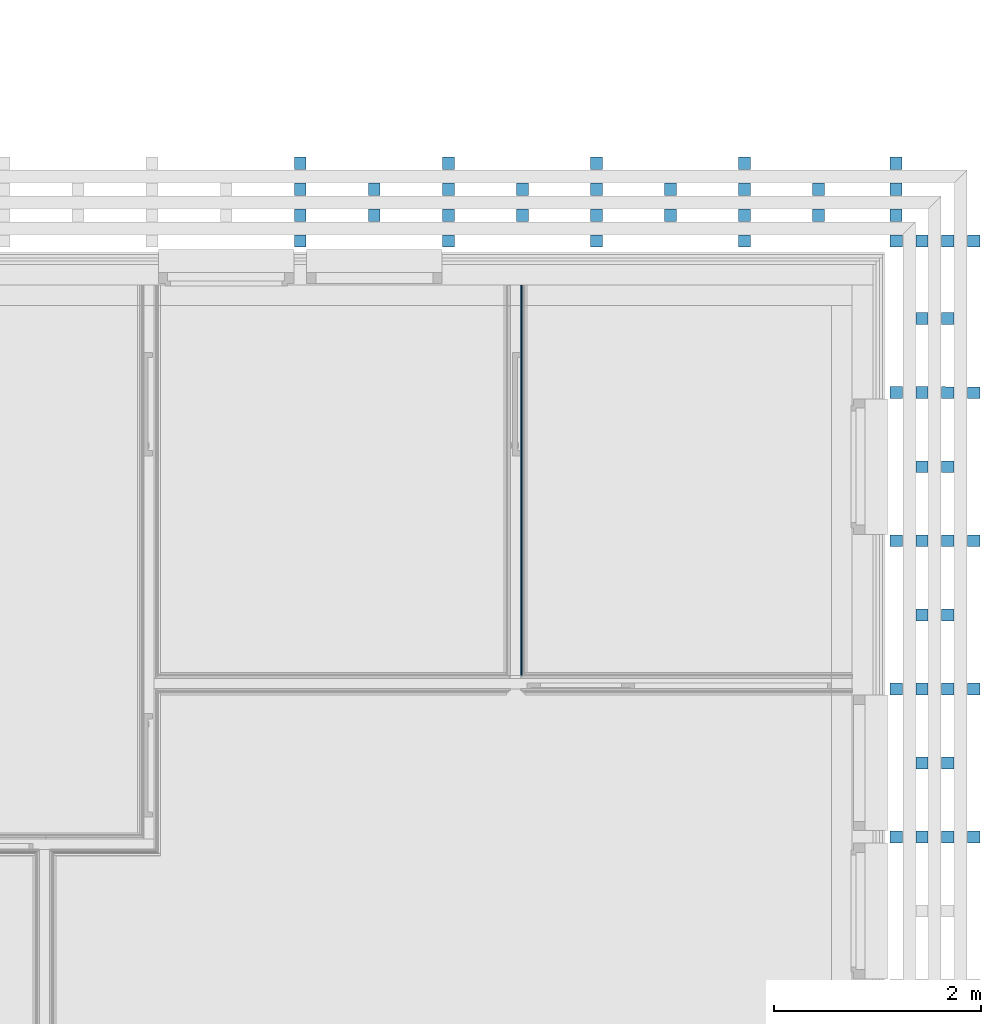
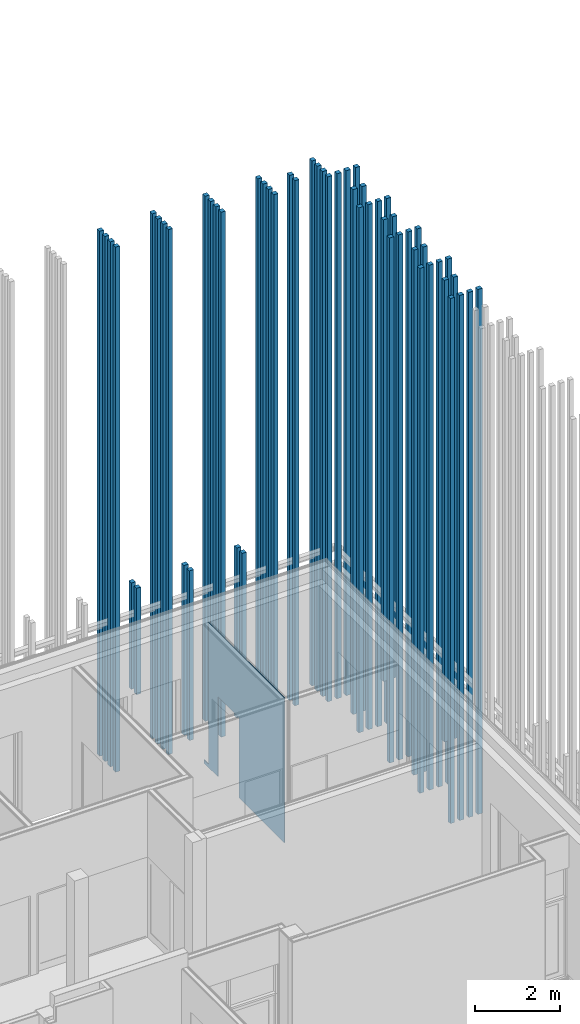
# One storey, part 221 of 260: 18 discrete accessories, 1 building element part, 1 opening, 1 element without a shape of its own.
"""IFC2X3 building model written with IfcOpenShell, lengths in millimetres."""

from ifc_helpers import new_model, entity, si_unit, converted_unit, derived_unit, money_unit, direction, frame, origin_with_axes, place, context, subcontext, project, spatial, faceted_brep, material, material_list, type_object, element, aggregate, save


model = new_model("IFC2X3")

# Units and contexts
model_context = context("Model", 3, precision=0.01, world=origin_with_axes(), true_north=direction((0.0, 1.0)))
body_context = subcontext(model_context, "Body", "Model", "MODEL_VIEW")
ifc_project = project(units=[si_unit("LENGTHUNIT", "METRE", prefix="MILLI"), si_unit("AREAUNIT", "SQUARE_METRE"), si_unit("VOLUMEUNIT", "CUBIC_METRE"), converted_unit("PLANEANGLEUNIT", "DEGREE", entity("IfcPlaneAngleMeasure", 0.0174532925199), si_unit("PLANEANGLEUNIT", "RADIAN"), dimensions=[0, 0, 0, 0, 0, 0, 0]), money_unit("EUR"), converted_unit("TIMEUNIT", "Year", entity("IfcTimeMeasure", 31556926.0), si_unit("TIMEUNIT", "SECOND"), dimensions=[0, 0, 1, 0, 0, 0, 0]), si_unit("MASSUNIT", "GRAM", prefix="KILO"), si_unit("THERMODYNAMICTEMPERATUREUNIT", "DEGREE_CELSIUS"), si_unit("LUMINOUSINTENSITYUNIT", "LUMEN"), si_unit("ENERGYUNIT", "JOULE", prefix="MEGA"), derived_unit("THERMALCONDUCTANCEUNIT", [(si_unit("POWERUNIT", "WATT"), 1), (si_unit("LENGTHUNIT", "METRE"), -1), (si_unit("THERMODYNAMICTEMPERATUREUNIT", "KELVIN"), -1)]), derived_unit("SPECIFICHEATCAPACITYUNIT", [(si_unit("ENERGYUNIT", "JOULE"), 1), (si_unit("MASSUNIT", "GRAM", prefix="KILO"), -1), (si_unit("THERMODYNAMICTEMPERATUREUNIT", "KELVIN"), -1)]), derived_unit("MASSDENSITYUNIT", [(si_unit("MASSUNIT", "GRAM", prefix="KILO"), 1), (si_unit("VOLUMEUNIT", "CUBIC_METRE"), -1)])], contexts=[model_context])

# Site, building, storey
site_placement = place(None, origin_with_axes())
site = spatial("IfcSite", under=ifc_project, at=site_placement, Name="Kolde pst 67a", CompositionType="ELEMENT")
building_placement = place(site_placement, origin_with_axes())
building = spatial("IfcBuilding", under=site, at=building_placement, Name="Riigigümnaasium", CompositionType="ELEMENT")
storey_placement = place(building_placement, origin_with_axes())
storey = spatial("IfcBuildingStorey", under=building, at=storey_placement, Name="1. korrus", CompositionType="ELEMENT", Elevation=0.0)

# Discrete accessories
ifc_material_1 = material(Name="_VÄLISVIIMISTLUS - sõrmjätkatud puitprussid 120x115mm, liitekohad vähemärgatavad, Platowood sõrmjätkatud kuusk või samaväärne; eeltöödeldud tuletõkkevõõbaga, tuletundlikkus B-s1, d0, Woodsafe Exterior WFX™ või samaväärne; kinnitused vastavalt EK osale")
ifc_material_list_1 = material_list([ifc_material_1, ifc_material_1, ifc_material_1, ifc_material_1])
discrete_accessory_type_1 = type_object("IfcDiscreteAccessoryType", Name="120 4-ne vertikaalne 870 x 115")
for number, where, z_axis, x_axis in (
    (1, (79122.4904765, 36791.9931243, 280.0), (0.0, 0.0, 1.0), (-6.32316306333e-05, -0.999999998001, 0.0)),
    (2, (80552.4904765, 36791.9930177, 280.0), (0.0, 0.0, 1.0), (-6.32316306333e-05, -0.999999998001, 0.0)),
    (3, (81982.4904765, 36791.9934091, 280.0), (0.0, 0.0, 1.0), (-6.32316306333e-05, -0.999999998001, 0.0)),
    (4, (83411.6535049, 36792.0019933, 280.000008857), (0.0, 0.0, 1.0), (-6.32316306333e-05, -0.999999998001, 0.0)),
    (5, (84792.0287604, 31097.5258894, 280.0), (0.0, 0.0, 1.0), (-0.999999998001, 6.32316306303e-05, 0.0)),
    (6, (84792.0287604, 32527.5258921, 280.0), (0.0, 0.0, 1.0), (-0.999999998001, 6.32316306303e-05, 0.0)),
    (7, (84792.0287604, 33957.5258816, 280.0), (0.0, 0.0, 1.0), (-0.999999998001, 6.32316306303e-05, 0.0)),
    (8, (84792.0311161, 35387.5263133, 280.0), (0.0, 0.0, 1.0), (-0.999999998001, 6.32316306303e-05, 0.0)),
    (9, (84792.0409335, 36852.3942354, 280.0), (0.0, 0.0, 1.0), (-0.999999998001, 6.32316306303e-05, 0.0)),
):
    element("IfcDiscreteAccessory", number, at=place(storey_placement, frame(where, z_axis=z_axis, x_axis=x_axis)), inside=storey, type_object=discrete_accessory_type_1, material=ifc_material_list_1, Name="Päikesevarjestus", context=body_context, shape_type="Brep", body=[
        faceted_brep([(-133.0, -70.0, 0.0), (-13.0, -70.0, 0.0), (-13.0, -70.0, 15050.0), (-133.0, -70.0, 15050.0), (-133.0, 45.0, 0.0), (-13.0, 45.0, 0.0), (-13.0, 45.0, 15050.0), (-133.0, 45.0, 15050.0)], [[[0, 1, 2, 3]], [[0, 4, 5, 1]], [[1, 5, 6, 2]], [[3, 2, 6, 7]], [[4, 0, 3, 7]], [[5, 4, 7, 6]]]),
        faceted_brep([(-383.0, -70.0, 0.0), (-263.0, -70.0, 0.0), (-263.0, -70.0, 15050.0), (-383.0, -70.0, 15050.0), (-383.0, 45.0, 0.0), (-263.0, 45.0, 0.0), (-263.0, 45.0, 15050.0), (-383.0, 45.0, 15050.0)], [[[0, 1, 2, 3]], [[0, 4, 5, 1]], [[1, 5, 6, 2]], [[3, 2, 6, 7]], [[4, 0, 3, 7]], [[5, 4, 7, 6]]]),
        faceted_brep([(-633.0, -70.0, 0.0), (-513.0, -70.0, 0.0), (-513.0, -70.0, 15050.0), (-633.0, -70.0, 15050.0), (-633.0, 45.0, 0.0), (-513.0, 45.0, 0.0), (-513.0, 45.0, 15050.0), (-633.0, 45.0, 15050.0)], [[[0, 1, 2, 3]], [[0, 4, 5, 1]], [[1, 5, 6, 2]], [[3, 2, 6, 7]], [[4, 0, 3, 7]], [[5, 4, 7, 6]]]),
        faceted_brep([(-883.0, -70.0, 0.0), (-763.0, -70.0, 0.0), (-763.0, -70.0, 15050.0), (-883.0, -70.0, 15050.0), (-883.0, 45.0, 0.0), (-763.0, 45.0, 0.0), (-763.0, 45.0, 15050.0), (-883.0, 45.0, 15050.0)], [[[0, 1, 2, 3]], [[0, 4, 5, 1]], [[1, 5, 6, 2]], [[3, 2, 6, 7]], [[4, 0, 3, 7]], [[5, 4, 7, 6]]]),
    ])
ifc_material_list_2 = material_list([ifc_material_1, ifc_material_1, ifc_material_1])
discrete_accessory_type_2 = type_object("IfcDiscreteAccessoryType", Name="120 4-ne vertikaalne -1 nurgaribi 620 x 115")
discrete_accessory_1_placement = place(storey_placement, frame((84877.5288877, 36791.9951155, 280.0), z_axis=(0.0, 0.0, 1.0), x_axis=(-6.32316306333e-05, -0.999999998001, 0.0)))
element("IfcDiscreteAccessory", 10, at=discrete_accessory_1_placement, inside=storey, type_object=discrete_accessory_type_2, material=ifc_material_list_2, Name="Päikesevarjestus", context=body_context, shape_type="Brep", body=[
    faceted_brep([(-383.0, -70.0, 0.0), (-263.0, -70.0, 0.0), (-263.0, -70.0, 15050.0), (-383.0, -70.0, 15050.0), (-383.0, 45.0, 0.0), (-263.0, 45.0, 0.0), (-263.0, 45.0, 15050.0), (-383.0, 45.0, 15050.0)], [[[0, 1, 2, 3]], [[0, 4, 5, 1]], [[1, 5, 6, 2]], [[3, 2, 6, 7]], [[4, 0, 3, 7]], [[5, 4, 7, 6]]]),
    faceted_brep([(-633.0, -70.0, 0.0), (-513.0, -70.0, 0.0), (-513.0, -70.0, 15050.0), (-633.0, -70.0, 15050.0), (-633.0, 45.0, 0.0), (-513.0, 45.0, 0.0), (-513.0, 45.0, 15050.0), (-633.0, 45.0, 15050.0)], [[[0, 1, 2, 3]], [[0, 4, 5, 1]], [[1, 5, 6, 2]], [[3, 2, 6, 7]], [[4, 0, 3, 7]], [[5, 4, 7, 6]]]),
    faceted_brep([(-883.0, -70.0, 0.0), (-763.0, -70.0, 0.0), (-763.0, -70.0, 15050.0), (-883.0, -70.0, 15050.0), (-883.0, 45.0, 0.0), (-763.0, 45.0, 0.0), (-763.0, 45.0, 15050.0), (-883.0, 45.0, 15050.0)], [[[0, 1, 2, 3]], [[0, 4, 5, 1]], [[1, 5, 6, 2]], [[3, 2, 6, 7]], [[4, 0, 3, 7]], [[5, 4, 7, 6]]]),
])
ifc_material_list_3 = material_list([ifc_material_1, ifc_material_1])
discrete_accessory_type_3 = type_object("IfcDiscreteAccessoryType", Name="1+paiksekaitse 3 370 x 115")
discrete_accessory_2_placement = place(storey_placement, frame((85772.0257564, 31885.0094523, 2100.00014213), z_axis=(0.0, 0.0, 1.0), x_axis=(-1.0, 0.0, 0.0)))
element("IfcDiscreteAccessory", 11, at=discrete_accessory_2_placement, inside=storey, type_object=discrete_accessory_type_3, material=ifc_material_list_3, Name="Päikesevarjestus", context=body_context, shape_type="Brep", body=[
    faceted_brep([(467.0, 117.5, 0.0), (347.0, 117.5, 0.0), (347.0, 117.5, 13229.9998579), (467.0, 117.5, 13229.9998579), (467.0, 2.5, 0.0), (347.0, 2.5, 0.0), (347.0, 2.5, 13229.9998579), (467.0, 2.5, 13229.9998579)], [[[0, 1, 2, 3]], [[0, 4, 5, 1]], [[1, 5, 6, 2]], [[3, 2, 6, 7]], [[4, 0, 3, 7]], [[5, 4, 7, 6]]]),
    faceted_brep([(717.0, 117.5, 0.0), (597.0, 117.5, 0.0), (597.0, 117.5, 13229.9998579), (717.0, 117.5, 13229.9998579), (717.0, 2.5, 0.0), (597.0, 2.5, 0.0), (597.0, 2.5, 13229.9998579), (717.0, 2.5, 13229.9998579)], [[[0, 1, 2, 3]], [[0, 4, 5, 1]], [[1, 5, 6, 2]], [[3, 2, 6, 7]], [[4, 0, 3, 7]], [[5, 4, 7, 6]]]),
])
discrete_accessory_3_placement = place(storey_placement, frame((85772.0257564, 33315.0094482, 280.0), z_axis=(0.0, 0.0, 1.0), x_axis=(-1.0, 0.0, 0.0)))
element("IfcDiscreteAccessory", 12, at=discrete_accessory_3_placement, inside=storey, type_object=discrete_accessory_type_3, material=ifc_material_list_3, Name="Päikesevarjestus", context=body_context, shape_type="Brep", body=[
    faceted_brep([(467.0, 117.5, 0.0), (347.0, 117.5, 0.0), (347.0, 117.5, 15050.0), (467.0, 117.5, 15050.0), (467.0, 2.5, 0.0), (347.0, 2.5, 0.0), (347.0, 2.5, 15050.0), (467.0, 2.5, 15050.0)], [[[0, 1, 2, 3]], [[0, 4, 5, 1]], [[1, 5, 6, 2]], [[3, 2, 6, 7]], [[4, 0, 3, 7]], [[5, 4, 7, 6]]]),
    faceted_brep([(717.0, 117.5, 0.0), (597.0, 117.5, 0.0), (597.0, 117.5, 15050.0), (717.0, 117.5, 15050.0), (717.0, 2.5, 0.0), (597.0, 2.5, 0.0), (597.0, 2.5, 15050.0), (717.0, 2.5, 15050.0)], [[[0, 1, 2, 3]], [[0, 4, 5, 1]], [[1, 5, 6, 2]], [[3, 2, 6, 7]], [[4, 0, 3, 7]], [[5, 4, 7, 6]]]),
])
discrete_accessory_4_placement = place(storey_placement, frame((85772.0257564, 34745.0094443, 2100.00014213), z_axis=(0.0, 0.0, 1.0), x_axis=(-1.0, 0.0, 0.0)))
element("IfcDiscreteAccessory", 13, at=discrete_accessory_4_placement, inside=storey, type_object=discrete_accessory_type_3, material=ifc_material_list_3, Name="Päikesevarjestus", context=body_context, shape_type="Brep", body=[
    faceted_brep([(467.0, 117.5, 0.0), (347.0, 117.5, 0.0), (347.0, 117.5, 13229.9998579), (467.0, 117.5, 13229.9998579), (467.0, 2.5, 0.0), (347.0, 2.5, 0.0), (347.0, 2.5, 13229.9998579), (467.0, 2.5, 13229.9998579)], [[[0, 1, 2, 3]], [[0, 4, 5, 1]], [[1, 5, 6, 2]], [[3, 2, 6, 7]], [[4, 0, 3, 7]], [[5, 4, 7, 6]]]),
    faceted_brep([(717.0, 117.5, 0.0), (597.0, 117.5, 0.0), (597.0, 117.5, 13229.9998579), (717.0, 117.5, 13229.9998579), (717.0, 2.5, 0.0), (597.0, 2.5, 0.0), (597.0, 2.5, 13229.9998579), (717.0, 2.5, 13229.9998579)], [[[0, 1, 2, 3]], [[0, 4, 5, 1]], [[1, 5, 6, 2]], [[3, 2, 6, 7]], [[4, 0, 3, 7]], [[5, 4, 7, 6]]]),
])
discrete_accessory_5_placement = place(storey_placement, frame((85772.0257564, 36175.0094268, 280.0), z_axis=(0.0, 0.0, 1.0), x_axis=(-1.0, 0.0, 0.0)))
element("IfcDiscreteAccessory", 14, at=discrete_accessory_5_placement, inside=storey, type_object=discrete_accessory_type_3, material=ifc_material_list_3, Name="Päikesevarjestus", context=body_context, shape_type="Brep", body=[
    faceted_brep([(467.0, 117.5, 0.0), (347.0, 117.5, 0.0), (347.0, 117.5, 15050.0), (467.0, 117.5, 15050.0), (467.0, 2.5, 0.0), (347.0, 2.5, 0.0), (347.0, 2.5, 15050.0), (467.0, 2.5, 15050.0)], [[[0, 1, 2, 3]], [[0, 4, 5, 1]], [[1, 5, 6, 2]], [[3, 2, 6, 7]], [[4, 0, 3, 7]], [[5, 4, 7, 6]]]),
    faceted_brep([(717.0, 117.5, 0.0), (597.0, 117.5, 0.0), (597.0, 117.5, 15050.0), (717.0, 117.5, 15050.0), (717.0, 2.5, 0.0), (597.0, 2.5, 0.0), (597.0, 2.5, 15050.0), (717.0, 2.5, 15050.0)], [[[0, 1, 2, 3]], [[0, 4, 5, 1]], [[1, 5, 6, 2]], [[3, 2, 6, 7]], [[4, 0, 3, 7]], [[5, 4, 7, 6]]]),
])
discrete_accessory_6_placement = place(storey_placement, frame((84055.0296803, 37772.0065764, 280.0), z_axis=(0.0, 0.0, 1.0), x_axis=(0.0, -1.0, 0.0)))
element("IfcDiscreteAccessory", 15, at=discrete_accessory_6_placement, inside=storey, type_object=discrete_accessory_type_3, material=ifc_material_list_3, Name="Päikesevarjestus", context=body_context, shape_type="Brep", body=[
    faceted_brep([(467.0, 117.5, 0.0), (347.0, 117.5, 0.0), (347.0, 117.5, 15050.0), (467.0, 117.5, 15050.0), (467.0, 2.49999999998, 0.0), (347.0, 2.5, 0.0), (347.0, 2.5, 15050.0), (467.0, 2.49999999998, 15050.0)], [[[0, 1, 2, 3]], [[0, 4, 5, 1]], [[1, 5, 6, 2]], [[3, 2, 6, 7]], [[4, 0, 3, 7]], [[5, 4, 7, 6]]]),
    faceted_brep([(717.0, 117.5, 0.0), (597.0, 117.5, 0.0), (597.0, 117.5, 15050.0), (717.0, 117.5, 15050.0), (717.0, 2.5, 0.0), (597.0, 2.5, 0.0), (597.0, 2.5, 15050.0), (717.0, 2.5, 15050.0)], [[[0, 1, 2, 3]], [[0, 4, 5, 1]], [[1, 5, 6, 2]], [[3, 2, 6, 7]], [[4, 0, 3, 7]], [[5, 4, 7, 6]]]),
])
for number, where, z_axis, x_axis in (
    (16, (82625.044847, 37771.9921115, 280.0), (0.0, 0.0, 1.0), (0.0, -1.0, 0.0)),
    (17, (81195.044847, 37771.9921115, 280.0), (0.0, 0.0, 1.0), (0.0, -1.0, 0.0)),
):
    element("IfcDiscreteAccessory", number, at=place(storey_placement, frame(where, z_axis=z_axis, x_axis=x_axis)), inside=storey, type_object=discrete_accessory_type_3, material=ifc_material_list_3, Name="Päikesevarjestus", context=body_context, shape_type="Brep", body=[
        faceted_brep([(467.0, 117.5, 0.0), (347.0, 117.5, 0.0), (347.0, 117.5, 4870.00014213), (467.0, 117.5, 4870.00014213), (467.0, 2.49999999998, 0.0), (347.0, 2.5, 0.0), (347.0, 2.5, 4870.00014213), (467.0, 2.49999999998, 4870.00014213)], [[[0, 1, 2, 3]], [[0, 4, 5, 1]], [[1, 5, 6, 2]], [[3, 2, 6, 7]], [[4, 0, 3, 7]], [[5, 4, 7, 6]]]),
        faceted_brep([(717.0, 117.5, 0.0), (597.0, 117.5, 0.0), (597.0, 117.5, 4870.00014213), (717.0, 117.5, 4870.00014213), (717.0, 2.5, 0.0), (597.0, 2.5, 0.0), (597.0, 2.5, 4870.00014213), (717.0, 2.5, 4870.00014213)], [[[0, 1, 2, 3]], [[0, 4, 5, 1]], [[1, 5, 6, 2]], [[3, 2, 6, 7]], [[4, 0, 3, 7]], [[5, 4, 7, 6]]]),
    ])
discrete_accessory_7_placement = place(storey_placement, frame((79765.044847, 37771.9921115, 2100.00014213), z_axis=(0.0, 0.0, 1.0), x_axis=(0.0, -1.0, 0.0)))
element("IfcDiscreteAccessory", 18, at=discrete_accessory_7_placement, inside=storey, type_object=discrete_accessory_type_3, material=ifc_material_list_3, Name="Päikesevarjestus", context=body_context, shape_type="Brep", body=[
    faceted_brep([(467.0, 117.5, 0.0), (347.0, 117.5, 0.0), (347.0, 117.5, 3050.0), (467.0, 117.5, 3050.0), (467.0, 2.49999999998, 0.0), (347.0, 2.5, 0.0), (347.0, 2.5, 3050.0), (467.0, 2.49999999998, 3050.0)], [[[0, 1, 2, 3]], [[0, 4, 5, 1]], [[1, 5, 6, 2]], [[3, 2, 6, 7]], [[4, 0, 3, 7]], [[5, 4, 7, 6]]]),
    faceted_brep([(717.0, 117.5, 0.0), (597.0, 117.5, 0.0), (597.0, 117.5, 3050.0), (717.0, 117.5, 3050.0), (717.0, 2.5, 0.0), (597.0, 2.5, 0.0), (597.0, 2.5, 3050.0), (717.0, 2.5, 3050.0)], [[[0, 1, 2, 3]], [[0, 4, 5, 1]], [[1, 5, 6, 2]], [[3, 2, 6, 7]], [[4, 0, 3, 7]], [[5, 4, 7, 6]]]),
])

# Wall, opening, building element part
wall_type = type_object("IfcWallType", Name="SS-PK-10/1_vill100+2dold 220", PredefinedType="NOTDEFINED")
wall_placement = place(storey_placement, frame((81079.9993279, 32670.0250702, 0.0), z_axis=(0.0, 0.0, 1.0), x_axis=(0.0, 1.0, 0.0)))
wall = element("IfcWall", 19, at=wall_placement, inside=storey, type_object=wall_type, Name="Sisesein")
opening_placement = place(wall_placement, frame((2619.97462957, 0.0, 0.0), z_axis=(0.0, 0.0, 1.0), x_axis=(1.0, 0.0, 0.0)))
element("IfcOpeningElement", 20, at=opening_placement, cuts=wall, Name="Siseuks", context=body_context, shape_type="Brep", body=[
    faceted_brep([(500.0, 220.0, 0.0), (500.0, 220.0, 2300.0), (500.0, -170.0, 2300.0), (500.0, -170.0, 0.0), (-500.0, 220.0, 0.0), (-500.0, 220.0, 2300.0), (-500.0, -170.0, 2300.0), (-500.0, -170.0, 0.0)], [[[0, 1, 2, 3]], [[0, 4, 5, 1]], [[1, 5, 6, 2]], [[3, 2, 6, 7]], [[4, 0, 3, 7]], [[5, 4, 7, 6]]]),
    faceted_brep([(500.0, -440.0, 2300.0), (500.0, -440.0, 0.0), (500.0, -170.0, 0.0), (500.0, -170.0, 2300.0), (-500.0, -440.0, 2300.0), (-500.0, -440.0, 0.0), (-500.0, -170.0, 0.0), (-500.0, -170.0, 2300.0)], [[[0, 1, 2, 3]], [[0, 4, 5, 1]], [[1, 5, 6, 2]], [[3, 2, 6, 7]], [[4, 0, 3, 7]], [[5, 4, 7, 6]]]),
])
ifc_material_2 = material(Name="_PLAATMATERJAL - tuletõkkekipsplaat, Knauf Red GKF või samaväärne")
building_element_part_placement = place(wall_placement, origin_with_axes())
building_element_part = element("IfcBuildingElementPart", 21, at=building_element_part_placement, material=ifc_material_2, Name="_PLAATMATERJAL - tuletõkkekipsplaat, Knauf Red GKF või samaväärne", context=body_context, shape_type="Brep", body=[
    faceted_brep([(2119.97462957, -175.0, 2300.0), (2119.97462957, -160.0, 2300.0), (3119.97462957, -160.0, 2300.0), (3119.97462957, -175.0, 2300.0), (2119.97462957, -170.0, 0.0), (2119.97462957, -160.0, 0.0), (2119.97462957, -175.0, 0.0), (0.0, -160.0, 0.0), (0.0, -160.0, 4156.9), (3569.97462957, -160.0, 4156.9), (3569.97462957, -160.0, 100.0), (3769.97462957, -160.0, 100.0), (3769.97462957, -160.0, 0.0), (3119.97462957, -160.0, 0.0), (3119.97462957, -170.0, 0.0), (3119.97462957, -175.0, 0.0), (3569.97462957, -175.0, 4156.9), (0.0, -175.0, 4156.9), (0.0, -175.0, 0.0), (3769.97462957, -175.0, 0.0), (3769.97462957, -175.0, 100.0), (3569.97462957, -175.0, 100.0)], [[[0, 1, 2, 3]], [[4, 5, 1, 0, 6]], [[1, 5, 7, 8, 9, 10, 11, 12, 13, 2]], [[3, 2, 13, 14, 15]], [[16, 17, 18, 6, 0, 3, 15, 19, 20, 21]], [[5, 4, 6, 18, 7]], [[7, 18, 17, 8]], [[9, 8, 17, 16]], [[21, 10, 9, 16]], [[20, 11, 10, 21]], [[20, 19, 12, 11]], [[14, 13, 12, 19, 15]]]),
])
aggregate(wall, [building_element_part])

save(model, "model.ifc")
